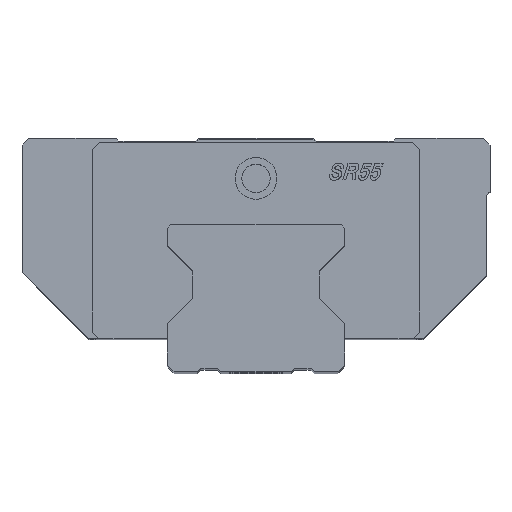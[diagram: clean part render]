
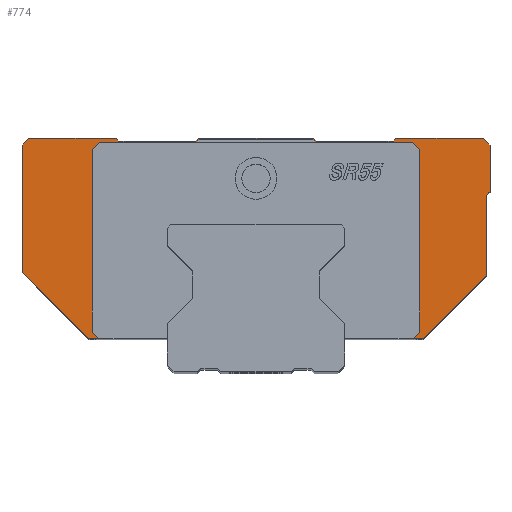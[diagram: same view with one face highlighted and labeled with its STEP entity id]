
A CAD part, top view. The second image highlights one B-rep face of the part: STEP entity #774.
In plain terms, the highlighted planar face has unit normal (0, 0, 1).
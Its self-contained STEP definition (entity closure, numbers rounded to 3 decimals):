
#236=B_SPLINE_CURVE_WITH_KNOTS('',1,(#7584,#7585),.UNSPECIFIED.,.F.,.F.,
(2,2),(0.,1.),.UNSPECIFIED.);
#237=B_SPLINE_CURVE_WITH_KNOTS('',1,(#7593,#7594),.UNSPECIFIED.,.F.,.F.,
(2,2),(0.,1.),.UNSPECIFIED.);
#774=ADVANCED_FACE('',(#1151),#1014,.T.);
#1014=PLANE('',#5278);
#1151=FACE_OUTER_BOUND('',#1409,.T.);
#1409=EDGE_LOOP('',(#2141,#2142,#2143,#2144,#2145,#2146,#2147,#2148,#2149,
#2150,#2151,#2152,#2153,#2154,#2155,#2156,#2157,#2158,#2159,#2160,#2161,
#2162,#2163,#2164,#2165,#2166,#2167,#2168,#2169,#2170));
#2141=ORIENTED_EDGE('',*,*,#3858,.F.);
#2142=ORIENTED_EDGE('',*,*,#3859,.F.);
#2143=ORIENTED_EDGE('',*,*,#3860,.F.);
#2144=ORIENTED_EDGE('',*,*,#3786,.F.);
#2145=ORIENTED_EDGE('',*,*,#3857,.F.);
#2146=ORIENTED_EDGE('',*,*,#3861,.F.);
#2147=ORIENTED_EDGE('',*,*,#3862,.F.);
#2148=ORIENTED_EDGE('',*,*,#3863,.F.);
#2149=ORIENTED_EDGE('',*,*,#3864,.F.);
#2150=ORIENTED_EDGE('',*,*,#3865,.F.);
#2151=ORIENTED_EDGE('',*,*,#3866,.F.);
#2152=ORIENTED_EDGE('',*,*,#3867,.F.);
#2153=ORIENTED_EDGE('',*,*,#3868,.F.);
#2154=ORIENTED_EDGE('',*,*,#3869,.F.);
#2155=ORIENTED_EDGE('',*,*,#3870,.F.);
#2156=ORIENTED_EDGE('',*,*,#3871,.F.);
#2157=ORIENTED_EDGE('',*,*,#3872,.F.);
#2158=ORIENTED_EDGE('',*,*,#3873,.F.);
#2159=ORIENTED_EDGE('',*,*,#3874,.F.);
#2160=ORIENTED_EDGE('',*,*,#3875,.F.);
#2161=ORIENTED_EDGE('',*,*,#3876,.F.);
#2162=ORIENTED_EDGE('',*,*,#3877,.F.);
#2163=ORIENTED_EDGE('',*,*,#3878,.F.);
#2164=ORIENTED_EDGE('',*,*,#3879,.F.);
#2165=ORIENTED_EDGE('',*,*,#3880,.F.);
#2166=ORIENTED_EDGE('',*,*,#3881,.F.);
#2167=ORIENTED_EDGE('',*,*,#3882,.F.);
#2168=ORIENTED_EDGE('',*,*,#3883,.F.);
#2169=ORIENTED_EDGE('',*,*,#3884,.F.);
#2170=ORIENTED_EDGE('',*,*,#3885,.F.);
#3259=VERTEX_POINT('',#7419);
#3260=VERTEX_POINT('',#7421);
#3313=VERTEX_POINT('',#7563);
#3314=VERTEX_POINT('',#7567);
#3315=VERTEX_POINT('',#7568);
#3316=VERTEX_POINT('',#7570);
#3317=VERTEX_POINT('',#7573);
#3318=VERTEX_POINT('',#7575);
#3319=VERTEX_POINT('',#7577);
#3320=VERTEX_POINT('',#7579);
#3321=VERTEX_POINT('',#7581);
#3322=VERTEX_POINT('',#7583);
#3323=VERTEX_POINT('',#7586);
#3324=VERTEX_POINT('',#7588);
#3325=VERTEX_POINT('',#7590);
#3326=VERTEX_POINT('',#7592);
#3327=VERTEX_POINT('',#7595);
#3328=VERTEX_POINT('',#7597);
#3329=VERTEX_POINT('',#7599);
#3330=VERTEX_POINT('',#7601);
#3331=VERTEX_POINT('',#7603);
#3332=VERTEX_POINT('',#7605);
#3333=VERTEX_POINT('',#7607);
#3334=VERTEX_POINT('',#7609);
#3335=VERTEX_POINT('',#7611);
#3336=VERTEX_POINT('',#7613);
#3337=VERTEX_POINT('',#7615);
#3338=VERTEX_POINT('',#7617);
#3339=VERTEX_POINT('',#7619);
#3340=VERTEX_POINT('',#7621);
#3786=EDGE_CURVE('',#3259,#3260,#4354,.T.);
#3857=EDGE_CURVE('',#3313,#3259,#4416,.T.);
#3858=EDGE_CURVE('',#3314,#3315,#4417,.T.);
#3859=EDGE_CURVE('',#3316,#3314,#4418,.T.);
#3860=EDGE_CURVE('',#3260,#3316,#4419,.T.);
#3861=EDGE_CURVE('',#3317,#3313,#4420,.T.);
#3862=EDGE_CURVE('',#3318,#3317,#4421,.T.);
#3863=EDGE_CURVE('',#3319,#3318,#4422,.T.);
#3864=EDGE_CURVE('',#3320,#3319,#4423,.T.);
#3865=EDGE_CURVE('',#3321,#3320,#4424,.T.);
#3866=EDGE_CURVE('',#3322,#3321,#4425,.T.);
#3867=EDGE_CURVE('',#3323,#3322,#236,.T.);
#3868=EDGE_CURVE('',#3324,#3323,#4426,.T.);
#3869=EDGE_CURVE('',#3325,#3324,#4427,.T.);
#3870=EDGE_CURVE('',#3326,#3325,#4428,.T.);
#3871=EDGE_CURVE('',#3327,#3326,#237,.T.);
#3872=EDGE_CURVE('',#3328,#3327,#4429,.T.);
#3873=EDGE_CURVE('',#3329,#3328,#4430,.T.);
#3874=EDGE_CURVE('',#3330,#3329,#4431,.T.);
#3875=EDGE_CURVE('',#3331,#3330,#4432,.T.);
#3876=EDGE_CURVE('',#3332,#3331,#4433,.T.);
#3877=EDGE_CURVE('',#3333,#3332,#4434,.T.);
#3878=EDGE_CURVE('',#3334,#3333,#4435,.T.);
#3879=EDGE_CURVE('',#3335,#3334,#4436,.T.);
#3880=EDGE_CURVE('',#3336,#3335,#4437,.T.);
#3881=EDGE_CURVE('',#3337,#3336,#4438,.T.);
#3882=EDGE_CURVE('',#3338,#3337,#4439,.T.);
#3883=EDGE_CURVE('',#3339,#3338,#4440,.T.);
#3884=EDGE_CURVE('',#3340,#3339,#4441,.T.);
#3885=EDGE_CURVE('',#3315,#3340,#4442,.T.);
#4354=LINE('',#7420,#4774);
#4416=LINE('',#7564,#4836);
#4417=LINE('',#7566,#4837);
#4418=LINE('',#7569,#4838);
#4419=LINE('',#7571,#4839);
#4420=LINE('',#7572,#4840);
#4421=LINE('',#7574,#4841);
#4422=LINE('',#7576,#4842);
#4423=LINE('',#7578,#4843);
#4424=LINE('',#7580,#4844);
#4425=LINE('',#7582,#4845);
#4426=LINE('',#7587,#4846);
#4427=LINE('',#7589,#4847);
#4428=LINE('',#7591,#4848);
#4429=LINE('',#7596,#4849);
#4430=LINE('',#7598,#4850);
#4431=LINE('',#7600,#4851);
#4432=LINE('',#7602,#4852);
#4433=LINE('',#7604,#4853);
#4434=LINE('',#7606,#4854);
#4435=LINE('',#7608,#4855);
#4436=LINE('',#7610,#4856);
#4437=LINE('',#7612,#4857);
#4438=LINE('',#7614,#4858);
#4439=LINE('',#7616,#4859);
#4440=LINE('',#7618,#4860);
#4441=LINE('',#7620,#4861);
#4442=LINE('',#7622,#4862);
#4774=VECTOR('',#5809,1.);
#4836=VECTOR('',#5927,1.);
#4837=VECTOR('',#5930,1.);
#4838=VECTOR('',#5931,1.);
#4839=VECTOR('',#5932,1.);
#4840=VECTOR('',#5933,1.);
#4841=VECTOR('',#5934,1.);
#4842=VECTOR('',#5935,1.);
#4843=VECTOR('',#5936,1.);
#4844=VECTOR('',#5937,1.);
#4845=VECTOR('',#5938,1.);
#4846=VECTOR('',#5939,1.);
#4847=VECTOR('',#5940,1.);
#4848=VECTOR('',#5941,1.);
#4849=VECTOR('',#5942,1.);
#4850=VECTOR('',#5943,1.);
#4851=VECTOR('',#5944,1.);
#4852=VECTOR('',#5945,1.);
#4853=VECTOR('',#5946,1.);
#4854=VECTOR('',#5947,1.);
#4855=VECTOR('',#5948,1.);
#4856=VECTOR('',#5949,1.);
#4857=VECTOR('',#5950,1.);
#4858=VECTOR('',#5951,1.);
#4859=VECTOR('',#5952,1.);
#4860=VECTOR('',#5953,1.);
#4861=VECTOR('',#5954,1.);
#4862=VECTOR('',#5955,1.);
#5278=AXIS2_PLACEMENT_3D('',#7623,#5956,#5957);
#5809=DIRECTION('',(-1.,0.,0.));
#5927=DIRECTION('',(-0.707,-0.707,0.));
#5930=DIRECTION('',(-0.707,0.707,0.));
#5931=DIRECTION('',(0.,1.,0.));
#5932=DIRECTION('',(0.707,0.707,0.));
#5933=DIRECTION('',(0.,-1.,0.));
#5934=DIRECTION('',(-0.707,-0.707,0.));
#5935=DIRECTION('',(0.,-1.,0.));
#5936=DIRECTION('',(0.707,-0.707,0.));
#5937=DIRECTION('',(1.,0.,0.));
#5938=DIRECTION('',(0.707,0.707,0.));
#5939=DIRECTION('',(0.707,-0.707,0.));
#5940=DIRECTION('',(1.,0.,0.));
#5941=DIRECTION('',(0.707,0.707,0.));
#5942=DIRECTION('',(0.707,-0.707,0.));
#5943=DIRECTION('',(1.,0.,0.));
#5944=DIRECTION('',(0.707,0.707,0.));
#5945=DIRECTION('',(0.,1.,0.));
#5946=DIRECTION('',(-0.707,0.707,0.));
#5947=DIRECTION('',(-1.,0.,0.));
#5948=DIRECTION('',(0.707,-0.707,0.));
#5949=DIRECTION('',(0.,-1.,0.));
#5950=DIRECTION('',(-0.707,-0.707,0.));
#5951=DIRECTION('',(-1.,0.,0.));
#5952=DIRECTION('',(-0.707,-0.707,0.));
#5953=DIRECTION('',(-1.,0.,0.));
#5954=DIRECTION('',(-0.707,0.707,0.));
#5955=DIRECTION('',(-1.,0.,0.));
#5956=DIRECTION('',(0.,0.,1.));
#5957=DIRECTION('',(1.,0.,0.));
#7419=CARTESIAN_POINT('',(50.,-60.,62.75));
#7420=CARTESIAN_POINT('',(50.,-60.,62.75));
#7421=CARTESIAN_POINT('',(47.,-60.,62.75));
#7563=CARTESIAN_POINT('',(69.,-41.,62.75));
#7564=CARTESIAN_POINT('',(69.,-41.,62.75));
#7566=CARTESIAN_POINT('',(49.,-3.3,62.75));
#7567=CARTESIAN_POINT('',(49.,-3.3,62.75));
#7568=CARTESIAN_POINT('',(46.9,-1.2,62.75));
#7569=CARTESIAN_POINT('',(49.,-58.,62.75));
#7570=CARTESIAN_POINT('',(49.,-58.,62.75));
#7571=CARTESIAN_POINT('',(47.,-60.,62.75));
#7572=CARTESIAN_POINT('',(69.,-17.,62.75));
#7573=CARTESIAN_POINT('',(69.,-17.,62.75));
#7574=CARTESIAN_POINT('',(70.,-16.,62.75));
#7575=CARTESIAN_POINT('',(70.,-16.,62.75));
#7576=CARTESIAN_POINT('',(70.,-2.,62.75));
#7577=CARTESIAN_POINT('',(70.,-2.,62.75));
#7578=CARTESIAN_POINT('',(68.,0.,62.75));
#7579=CARTESIAN_POINT('',(68.,0.,62.75));
#7580=CARTESIAN_POINT('',(41.8,0.,62.75));
#7581=CARTESIAN_POINT('',(41.8,0.,62.75));
#7582=CARTESIAN_POINT('',(41.,-0.8,62.75));
#7583=CARTESIAN_POINT('',(41.,-0.8,62.75));
#7584=CARTESIAN_POINT('',(18.,-0.8,62.75));
#7585=CARTESIAN_POINT('',(41.,-0.8,62.75));
#7586=CARTESIAN_POINT('',(18.,-0.8,62.75));
#7587=CARTESIAN_POINT('',(17.2,0.,62.75));
#7588=CARTESIAN_POINT('',(17.2,0.,62.75));
#7589=CARTESIAN_POINT('',(-17.2,0.,62.75));
#7590=CARTESIAN_POINT('',(-17.2,0.,62.75));
#7591=CARTESIAN_POINT('',(-18.,-0.8,62.75));
#7592=CARTESIAN_POINT('',(-18.,-0.8,62.75));
#7593=CARTESIAN_POINT('',(-41.,-0.8,62.75));
#7594=CARTESIAN_POINT('',(-18.,-0.8,62.75));
#7595=CARTESIAN_POINT('',(-41.,-0.8,62.75));
#7596=CARTESIAN_POINT('',(-41.8,0.,62.75));
#7597=CARTESIAN_POINT('',(-41.8,0.,62.75));
#7598=CARTESIAN_POINT('',(-68.,0.,62.75));
#7599=CARTESIAN_POINT('',(-68.,0.,62.75));
#7600=CARTESIAN_POINT('',(-70.,-2.,62.75));
#7601=CARTESIAN_POINT('',(-70.,-2.,62.75));
#7602=CARTESIAN_POINT('',(-70.,-40.,62.75));
#7603=CARTESIAN_POINT('',(-70.,-40.,62.75));
#7604=CARTESIAN_POINT('',(-50.,-60.,62.75));
#7605=CARTESIAN_POINT('',(-50.,-60.,62.75));
#7606=CARTESIAN_POINT('',(-47.,-60.,62.75));
#7607=CARTESIAN_POINT('',(-47.,-60.,62.75));
#7608=CARTESIAN_POINT('',(-49.,-58.,62.75));
#7609=CARTESIAN_POINT('',(-49.,-58.,62.75));
#7610=CARTESIAN_POINT('',(-49.,-3.3,62.75));
#7611=CARTESIAN_POINT('',(-49.,-3.3,62.75));
#7612=CARTESIAN_POINT('',(-46.9,-1.2,62.75));
#7613=CARTESIAN_POINT('',(-46.9,-1.2,62.75));
#7614=CARTESIAN_POINT('',(-17.834,-1.2,62.75));
#7615=CARTESIAN_POINT('',(-17.834,-1.2,62.75));
#7616=CARTESIAN_POINT('',(-17.034,-0.4,62.75));
#7617=CARTESIAN_POINT('',(-17.034,-0.4,62.75));
#7618=CARTESIAN_POINT('',(17.034,-0.4,62.75));
#7619=CARTESIAN_POINT('',(17.034,-0.4,62.75));
#7620=CARTESIAN_POINT('',(17.834,-1.2,62.75));
#7621=CARTESIAN_POINT('',(17.834,-1.2,62.75));
#7622=CARTESIAN_POINT('',(46.9,-1.2,62.75));
#7623=CARTESIAN_POINT('',(-77.,-63.,62.75));
